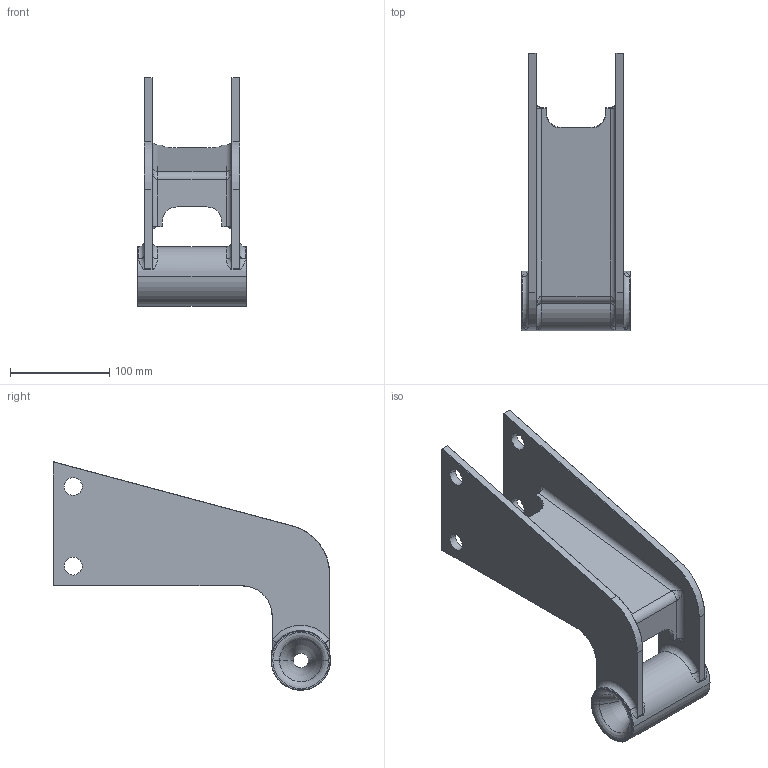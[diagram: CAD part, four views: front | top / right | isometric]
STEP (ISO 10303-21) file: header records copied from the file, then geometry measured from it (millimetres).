
FILE_DESCRIPTION((''),'2;1');
FILE_NAME('FEM_SEILHUELSE','2020-03-31T',('pkloninger'),(''),'CREO PARAMETRIC BY PTC INC, 2017020','CREO PARAMETRIC BY PTC INC, 2017020','');
FILE_SCHEMA(('CONFIG_CONTROL_DESIGN'));
Length unit declared in the file: millimetre
Products named in the file (1): FEM_SEILHUELSE
Bounding box: 110 x 279 x 230 mm (x, y, z)
Volume: 784489.9 mm3; surface area: 182161.7 mm2
Topology: 1 solids, 1 shells, 136 faces, 324 edges, 192 vertices
Faces by surface type: cylinder 62, plane 30, torus 28, bspline 12, cone 4
Entity records: 6066 total; most frequent: CARTESIAN_POINT 2852, DIRECTION 700, ORIENTED_EDGE 648, EDGE_CURVE 324, AXIS2_PLACEMENT_3D 280, VERTEX_POINT 192, CIRCLE 156, EDGE_LOOP 150
